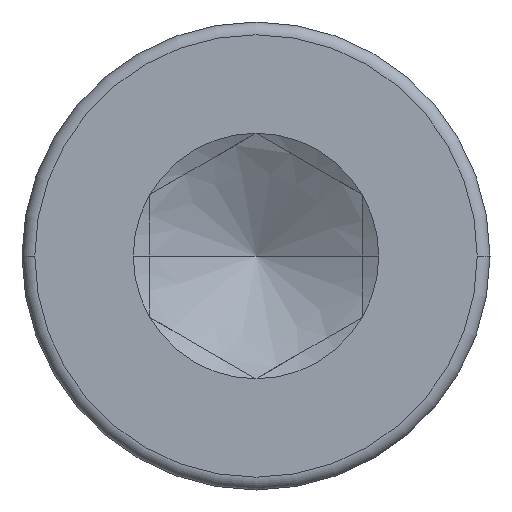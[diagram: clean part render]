
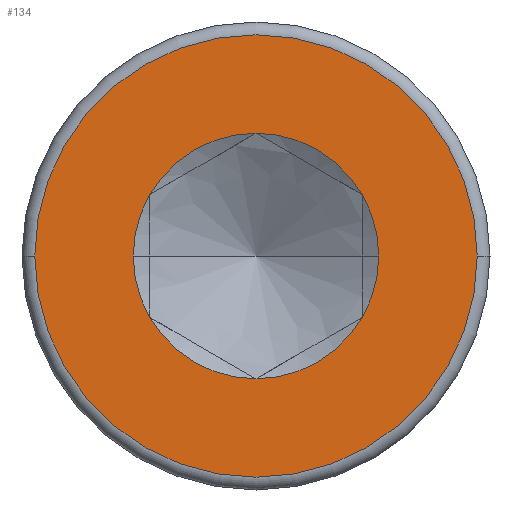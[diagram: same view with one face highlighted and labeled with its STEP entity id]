
A CAD part, left-side view. The second image highlights one B-rep face of the part: STEP entity #134.
In plain terms, the highlighted planar face has unit normal (-1, 0, 0).
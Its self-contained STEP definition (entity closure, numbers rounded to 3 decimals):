
#90=FACE_BOUND('',#206,.F.);
#101=PLANE('',#663);
#134=ADVANCED_FACE('',(#90,#169),#101,.T.);
#169=FACE_OUTER_BOUND('',#207,.F.);
#206=EDGE_LOOP('',(#338,#339,#340,#341,#342,#343,#344,#345,#346,#347,#348,
#349,#350,#351,#352,#353));
#207=EDGE_LOOP('',(#354,#355));
#338=ORIENTED_EDGE('',*,*,#467,.T.);
#339=ORIENTED_EDGE('',*,*,#500,.T.);
#340=ORIENTED_EDGE('',*,*,#499,.T.);
#341=ORIENTED_EDGE('',*,*,#466,.T.);
#342=ORIENTED_EDGE('',*,*,#465,.T.);
#343=ORIENTED_EDGE('',*,*,#498,.T.);
#344=ORIENTED_EDGE('',*,*,#505,.T.);
#345=ORIENTED_EDGE('',*,*,#453,.T.);
#346=ORIENTED_EDGE('',*,*,#464,.T.);
#347=ORIENTED_EDGE('',*,*,#504,.T.);
#348=ORIENTED_EDGE('',*,*,#503,.T.);
#349=ORIENTED_EDGE('',*,*,#463,.T.);
#350=ORIENTED_EDGE('',*,*,#462,.T.);
#351=ORIENTED_EDGE('',*,*,#502,.T.);
#352=ORIENTED_EDGE('',*,*,#501,.T.);
#353=ORIENTED_EDGE('',*,*,#452,.T.);
#354=ORIENTED_EDGE('',*,*,#513,.F.);
#355=ORIENTED_EDGE('',*,*,#506,.F.);
#384=LINE('',#910,#414);
#385=LINE('',#911,#415);
#386=LINE('',#960,#416);
#387=LINE('',#961,#417);
#388=LINE('',#962,#418);
#389=LINE('',#963,#419);
#390=LINE('',#964,#420);
#391=LINE('',#965,#421);
#414=VECTOR('',#708,0.001);
#415=VECTOR('',#709,0.001);
#416=VECTOR('',#710,0.001);
#417=VECTOR('',#711,0.001);
#418=VECTOR('',#712,0.001);
#419=VECTOR('',#713,0.001);
#420=VECTOR('',#714,0.001);
#421=VECTOR('',#715,0.001);
#452=EDGE_CURVE('',#596,#595,#384,.T.);
#453=EDGE_CURVE('',#594,#593,#385,.T.);
#462=EDGE_CURVE('',#582,#591,#386,.T.);
#463=EDGE_CURVE('',#583,#582,#387,.T.);
#464=EDGE_CURVE('',#593,#584,#388,.T.);
#465=EDGE_CURVE('',#581,#586,#389,.T.);
#466=EDGE_CURVE('',#588,#581,#390,.T.);
#467=EDGE_CURVE('',#595,#589,#391,.T.);
#498=EDGE_CURVE('',#586,#571,#532,.T.);
#499=EDGE_CURVE('',#590,#588,#533,.T.);
#500=EDGE_CURVE('',#589,#590,#534,.T.);
#501=EDGE_CURVE('',#572,#596,#535,.T.);
#502=EDGE_CURVE('',#591,#572,#536,.T.);
#503=EDGE_CURVE('',#585,#583,#537,.T.);
#504=EDGE_CURVE('',#584,#585,#538,.T.);
#505=EDGE_CURVE('',#571,#594,#539,.T.);
#506=EDGE_CURVE('',#561,#560,#540,.T.);
#513=EDGE_CURVE('',#560,#561,#545,.T.);
#532=CIRCLE('',#623,1.443);
#533=CIRCLE('',#624,1.443);
#534=CIRCLE('',#625,1.443);
#535=CIRCLE('',#626,1.443);
#536=CIRCLE('',#627,1.443);
#537=CIRCLE('',#628,1.443);
#538=CIRCLE('',#629,1.443);
#539=CIRCLE('',#630,1.443);
#540=CIRCLE('',#631,2.6);
#545=CIRCLE('',#636,2.6);
#560=VERTEX_POINT('',#873);
#561=VERTEX_POINT('',#874);
#571=VERTEX_POINT('',#884);
#572=VERTEX_POINT('',#885);
#581=VERTEX_POINT('',#894);
#582=VERTEX_POINT('',#895);
#583=VERTEX_POINT('',#896);
#584=VERTEX_POINT('',#897);
#585=VERTEX_POINT('',#898);
#586=VERTEX_POINT('',#899);
#588=VERTEX_POINT('',#901);
#589=VERTEX_POINT('',#902);
#590=VERTEX_POINT('',#903);
#591=VERTEX_POINT('',#904);
#593=VERTEX_POINT('',#906);
#594=VERTEX_POINT('',#907);
#595=VERTEX_POINT('',#908);
#596=VERTEX_POINT('',#909);
#623=AXIS2_PLACEMENT_3D('',#1036,#746,#747);
#624=AXIS2_PLACEMENT_3D('',#1037,#748,#749);
#625=AXIS2_PLACEMENT_3D('',#1038,#750,#751);
#626=AXIS2_PLACEMENT_3D('',#1039,#752,#753);
#627=AXIS2_PLACEMENT_3D('',#1040,#754,#755);
#628=AXIS2_PLACEMENT_3D('',#1041,#756,#757);
#629=AXIS2_PLACEMENT_3D('',#1042,#758,#759);
#630=AXIS2_PLACEMENT_3D('',#1043,#760,#761);
#631=AXIS2_PLACEMENT_3D('',#1044,#762,#763);
#636=AXIS2_PLACEMENT_3D('',#1051,#774,#775);
#663=AXIS2_PLACEMENT_3D('',#1078,#828,#829);
#708=DIRECTION('',(0.,0.,1.));
#709=DIRECTION('',(0.,0.,-1.));
#710=DIRECTION('',(0.,0.,1.));
#711=DIRECTION('',(0.,-0.866,0.5));
#712=DIRECTION('',(0.,-0.866,-0.5));
#713=DIRECTION('',(0.,0.,-1.));
#714=DIRECTION('',(0.,0.866,-0.5));
#715=DIRECTION('',(0.,0.866,0.5));
#746=DIRECTION('',(-1.,0.,0.));
#747=DIRECTION('',(0.,0.867,0.499));
#748=DIRECTION('',(-1.,0.,0.));
#749=DIRECTION('',(0.,0.,1.));
#750=DIRECTION('',(-1.,0.,0.));
#751=DIRECTION('',(0.,-0.866,0.5));
#752=DIRECTION('',(-1.,0.,0.));
#753=DIRECTION('',(0.,-1.,0.));
#754=DIRECTION('',(-1.,0.,0.));
#755=DIRECTION('',(0.,-0.867,-0.499));
#756=DIRECTION('',(-1.,0.,0.));
#757=DIRECTION('',(0.,0.,-1.));
#758=DIRECTION('',(-1.,0.,0.));
#759=DIRECTION('',(0.,0.866,-0.5));
#760=DIRECTION('',(-1.,0.,0.));
#761=DIRECTION('',(0.,1.,0.));
#762=DIRECTION('',(-1.,0.,0.));
#763=DIRECTION('',(0.,1.,0.));
#774=DIRECTION('',(-1.,0.,0.));
#775=DIRECTION('',(0.,-1.,0.));
#828=DIRECTION('',(-1.,0.,0.));
#829=DIRECTION('',(0.,0.,1.));
#873=CARTESIAN_POINT('',(-3.,-2.6,0.));
#874=CARTESIAN_POINT('',(-3.,2.6,0.));
#884=CARTESIAN_POINT('',(-3.,1.443,0.));
#885=CARTESIAN_POINT('',(-3.,-1.443,0.));
#894=CARTESIAN_POINT('',(-3.,1.25,0.721));
#895=CARTESIAN_POINT('',(-3.,-1.25,-0.721));
#896=CARTESIAN_POINT('',(-3.,-1.249,-0.722));
#897=CARTESIAN_POINT('',(-3.,1.249,-0.722));
#898=CARTESIAN_POINT('',(-3.,0.,-1.443));
#899=CARTESIAN_POINT('',(-3.,1.25,0.72));
#901=CARTESIAN_POINT('',(-3.,1.249,0.722));
#902=CARTESIAN_POINT('',(-3.,-1.249,0.722));
#903=CARTESIAN_POINT('',(-3.,0.,1.443));
#904=CARTESIAN_POINT('',(-3.,-1.25,-0.72));
#906=CARTESIAN_POINT('',(-3.,1.25,-0.721));
#907=CARTESIAN_POINT('',(-3.,1.25,-0.72));
#908=CARTESIAN_POINT('',(-3.,-1.25,0.721));
#909=CARTESIAN_POINT('',(-3.,-1.25,0.72));
#910=CARTESIAN_POINT('',(-3.,-1.25,0.72));
#911=CARTESIAN_POINT('',(-3.,1.25,-0.72));
#960=CARTESIAN_POINT('',(-3.,-1.25,-0.721));
#961=CARTESIAN_POINT('',(-3.,-1.249,-0.722));
#962=CARTESIAN_POINT('',(-3.,1.25,-0.721));
#963=CARTESIAN_POINT('',(-3.,1.25,0.721));
#964=CARTESIAN_POINT('',(-3.,1.249,0.722));
#965=CARTESIAN_POINT('',(-3.,-1.25,0.721));
#1036=CARTESIAN_POINT('',(-3.,0.,0.));
#1037=CARTESIAN_POINT('',(-3.,0.,0.));
#1038=CARTESIAN_POINT('',(-3.,0.,0.));
#1039=CARTESIAN_POINT('',(-3.,0.,0.));
#1040=CARTESIAN_POINT('',(-3.,0.,0.));
#1041=CARTESIAN_POINT('',(-3.,0.,0.));
#1042=CARTESIAN_POINT('',(-3.,0.,0.));
#1043=CARTESIAN_POINT('',(-3.,0.,0.));
#1044=CARTESIAN_POINT('',(-3.,0.,0.));
#1051=CARTESIAN_POINT('',(-3.,0.,0.));
#1078=CARTESIAN_POINT('',(-3.,-2.652,-2.652));
